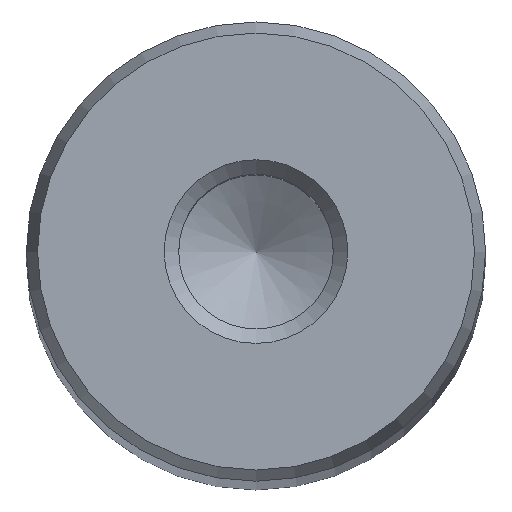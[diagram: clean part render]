
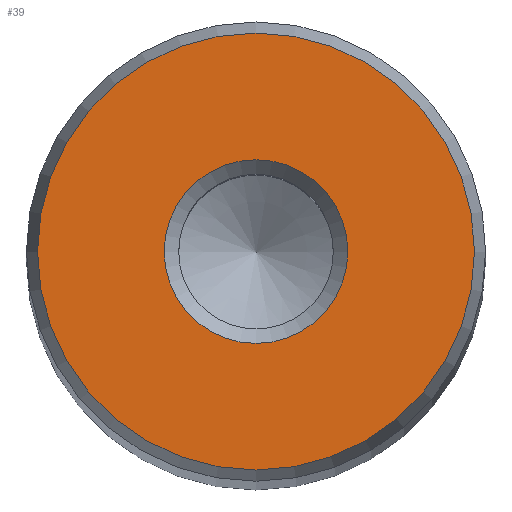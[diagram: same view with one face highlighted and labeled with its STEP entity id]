
A CAD part, top view. The second image highlights one B-rep face of the part: STEP entity #39.
In plain terms, the highlighted planar face has unit normal (0, 0, 1).
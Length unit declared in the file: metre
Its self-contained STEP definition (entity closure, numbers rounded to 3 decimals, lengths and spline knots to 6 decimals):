
#39 = ADVANCED_FACE( '', ( #84, #85 ), #86, .T. );
#84 = FACE_OUTER_BOUND( '', #143, .T. );
#85 = FACE_BOUND( '', #144, .T. );
#86 = PLANE( '', #145 );
#143 = EDGE_LOOP( '', ( #198 ) );
#144 = EDGE_LOOP( '', ( #199 ) );
#145 = AXIS2_PLACEMENT_3D( '', #200, #201, #202 );
#198 = ORIENTED_EDGE( '', *, *, #273, .T. );
#199 = ORIENTED_EDGE( '', *, *, #274, .T. );
#200 = CARTESIAN_POINT( '', ( 0., 0., 0.33 ) );
#201 = DIRECTION( '', ( 0., 0., 1. ) );
#202 = DIRECTION( '', ( 1., 0., 0. ) );
#273 = EDGE_CURVE( '', #302, #302, #303, .T. );
#274 = EDGE_CURVE( '', #304, #304, #305, .T. );
#302 = VERTEX_POINT( '', #339 );
#303 = CIRCLE( '', #340, 0.014272 );
#304 = VERTEX_POINT( '', #341 );
#305 = CIRCLE( '', #342, 0.006 );
#339 = CARTESIAN_POINT( '', ( 0.014272, 0., 0.33 ) );
#340 = AXIS2_PLACEMENT_3D( '', #376, #377, #378 );
#341 = CARTESIAN_POINT( '', ( 0.006, 0., 0.33 ) );
#342 = AXIS2_PLACEMENT_3D( '', #379, #380, #381 );
#376 = CARTESIAN_POINT( '', ( 0., 0., 0.33 ) );
#377 = DIRECTION( '', ( 0., 0., 1. ) );
#378 = DIRECTION( '', ( 1., 0., 0. ) );
#379 = CARTESIAN_POINT( '', ( 0., 0., 0.33 ) );
#380 = DIRECTION( '', ( 0., 0., -1. ) );
#381 = DIRECTION( '', ( 1., 0., 0. ) );
